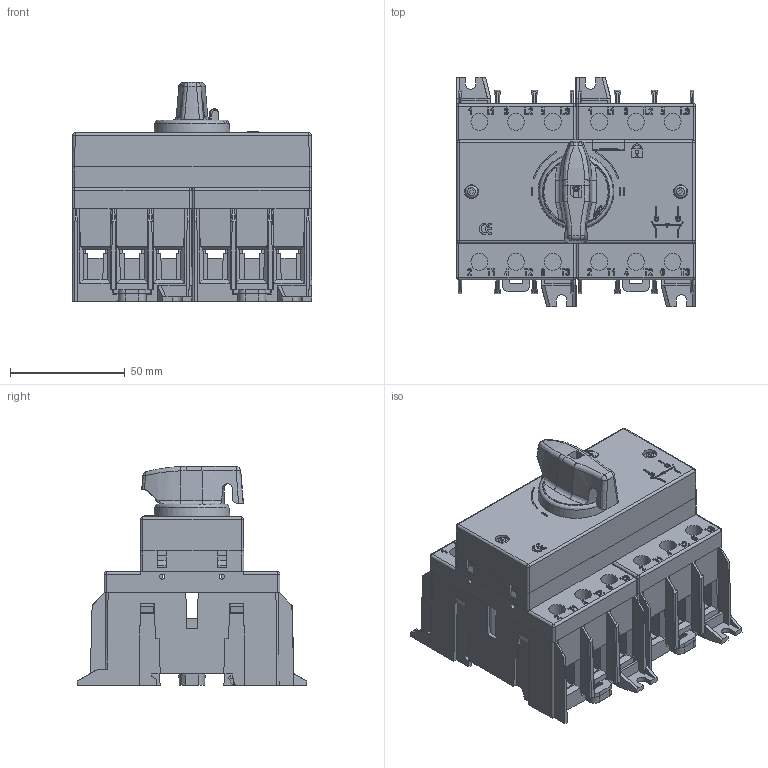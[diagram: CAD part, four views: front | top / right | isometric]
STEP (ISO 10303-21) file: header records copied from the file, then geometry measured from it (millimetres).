
FILE_DESCRIPTION((''),'2;1');
FILE_NAME('Z:\PROGETTI INVENTOR\DIEGO\4 COMMERCIALE - PRODUZIONE - INFORMATIVA\MATERIALE DI COSTRUZIONE\BLOCCHI SOLIDI 2013\BLOCCHI SOLIDI SD2\BLOCCO COMM SD2 3P 2013.stp','2013-02-20T10:19:31',('diego'),(''),'Autodesk Inventor 2013','Autodesk Inventor 2013','');
FILE_SCHEMA(('AUTOMOTIVE_DESIGN { 1 0 10303 214 1 1 1 1 }'));
Length unit declared in the file: millimetre
Products named in the file (1): BLOCCO COMM SD2 3P 2013
Bounding box: 104.4 x 100.03 x 95.36 mm (x, y, z)
Volume: 154142.9 mm3; surface area: 195006.9 mm2
Topology: 1 solids, 3 shells, 3447 faces, 9964 edges, 6487 vertices
Faces by surface type: plane 2764, cylinder 322, cone 265, bspline 46, sphere 27, torus 23
Full cylindrical faces by diameter (mm): 2 x11, 2.18 x16, 2.2 x8, 2.3 x8, 3 x16, 3.2 x1, 3.5 x2, 5.3 x1, 5.4 x2, 7.3 x12, 24 x1
Entity records: 115774 total; most frequent: CARTESIAN_POINT 24753, ORIENTED_EDGE 19246, DIRECTION 17214, EDGE_CURVE 9623, VECTOR 7962, LINE 7962, VERTEX_POINT 6333, AXIS2_PLACEMENT_3D 4626
